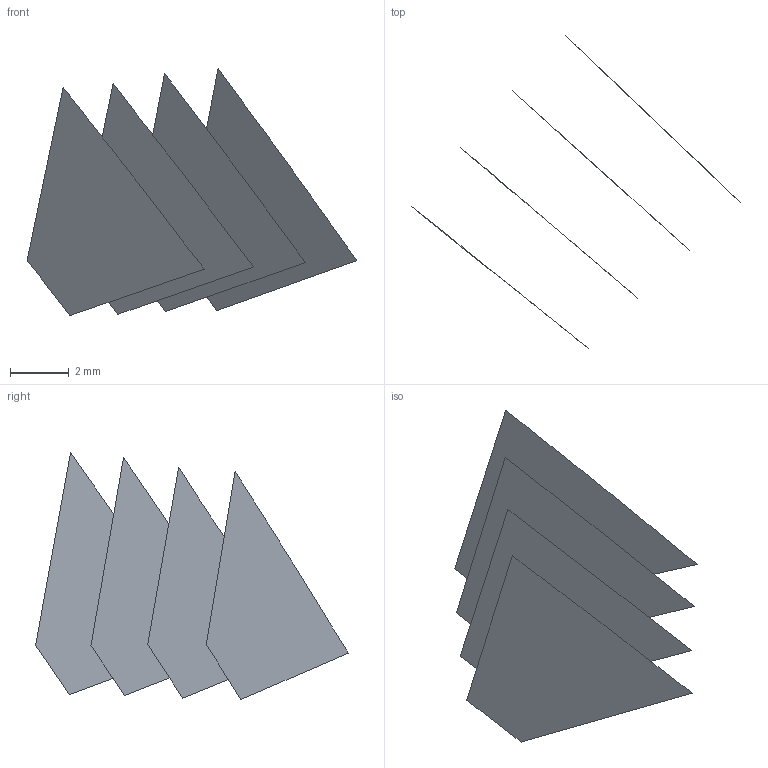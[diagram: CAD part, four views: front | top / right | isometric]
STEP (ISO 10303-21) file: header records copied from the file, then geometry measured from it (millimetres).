
FILE_DESCRIPTION(('FreeCAD Model'),'2;1');
FILE_NAME('Open CASCADE Shape Model','2022-05-21T09:28:01',('FreeCAD'),( 'FreeCAD'),'Open CASCADE STEP processor 7.5','FreeCAD','Unknown');
FILE_SCHEMA(('AUTOMOTIVE_DESIGN { 1 0 10303 214 1 1 1 1 }'));
Length unit declared in the file: millimetre
Products named in the file (5): Open CASCADE STEP translator 7.5 1; Open CASCADE STEP translator 7.5 1.1; Open CASCADE STEP translator 7.5 1.2; Open CASCADE STEP translator 7.5 1.3; Open CASCADE STEP translator 7.5 1.4
Assembly tree (4 placements, depth 2):
  Open CASCADE STEP translator 7.5 1
    Open CASCADE STEP translator 7.5 1.1
    Open CASCADE STEP translator 7.5 1.2
    Open CASCADE STEP translator 7.5 1.3
    Open CASCADE STEP translator 7.5 1.4
Bounding box: 11.21 x 10.64 x 8.41 mm (x, y, z)
Surface area: 128.1 mm2 (no closed solid volume)
Topology: 0 solids, 4 shells, 4 faces, 60 edges, 60 vertices
Faces by surface type: bspline 4
Entity records: 908 total; most frequent: CARTESIAN_POINT 321, B_SPLINE_CURVE_WITH_KNOTS 120, ORIENTED_EDGE 60, EDGE_CURVE 60, VERTEX_POINT 60, SURFACE_CURVE 60, PCURVE 60, DEFINITIONAL_REPRESENTATION 60
